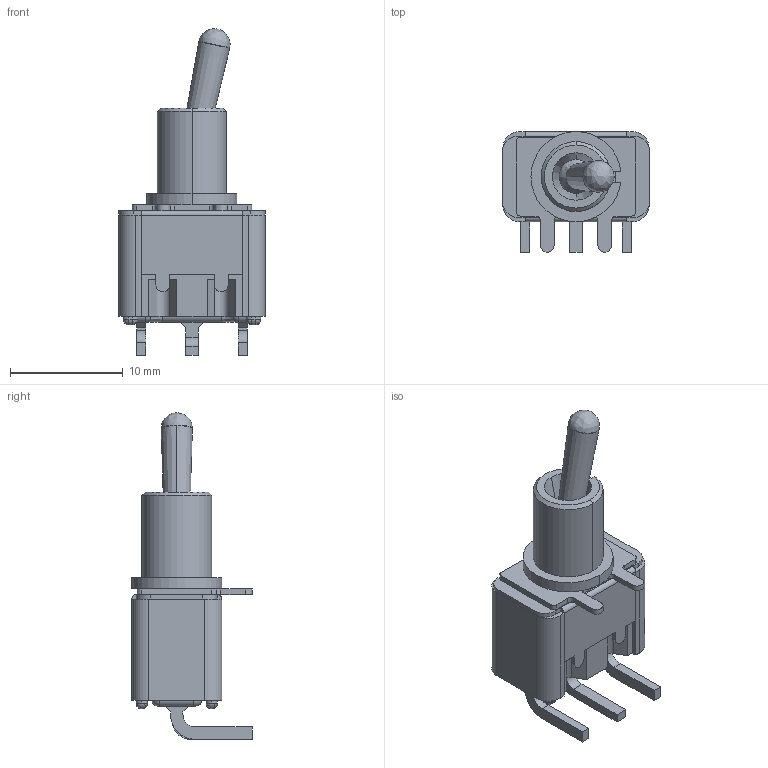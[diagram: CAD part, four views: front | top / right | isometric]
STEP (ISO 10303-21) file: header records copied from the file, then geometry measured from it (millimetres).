
FILE_DESCRIPTION (( 'STEP AP203' ), '1' );
FILE_NAME ('STM 106 D-RA.stp', '2017-01-06T04:10:25', ( '' ), ( '' ), 'SwSTEP 2.0', 'SolidWorks 2015', '' );
FILE_SCHEMA (( 'CONFIG_CONTROL_DESIGN' ));
Length unit declared in the file: millimetre
Products named in the file (9): シジダ（0029）（0039）（0076）改3RA曲げ; プート（0019）（0077）改2; 俤儁僢僩乮0060乯奜娤恾梡; ツマミ（0025R）改3; 僐愙揰乮0041乯乮0046乯乮0062乯夵4俼俙嬋偘; ボックス（0056）（0060）（0102）改6; STM 106 D-RA; スーブ(0089R)改4; フー（1031)(1032)(1033）(1034)(1035)(1036)(1037)(1038)(1039)(1040)
Assembly tree (9 placements, depth 2):
  STM 106 D-RA
    ボックス（0056）（0060）（0102）改6
    ツマミ（0025R）改3
    スーブ(0089R)改4
    シジダ（0029）（0039）（0076）改3RA曲げ
    僐愙揰乮0041乯乮0046乯乮0062乯夵4俼俙嬋偘  x2
    フー（1031)(1032)(1033）(1034)(1035)(1036)(1037)(1038)(1039)(1040)
    プート（0019）（0077）改2
    俤儁僢僩乮0060乯奜娤恾梡
Bounding box: 13 x 10.7 x 28.99 mm (x, y, z)
Volume: 878.4 mm3; surface area: 2245.2 mm2
Topology: 9 solids, 9 shells, 469 faces, 1240 edges, 770 vertices
Faces by surface type: plane 244, cylinder 163, bspline 41, cone 13, torus 8
Entity records: 15360 total; most frequent: CARTESIAN_POINT 3746, ORIENTED_EDGE 2256, DIRECTION 2175, EDGE_CURVE 1128, LINE 733, VECTOR 733, AXIS2_PLACEMENT_3D 721, VERTEX_POINT 718
